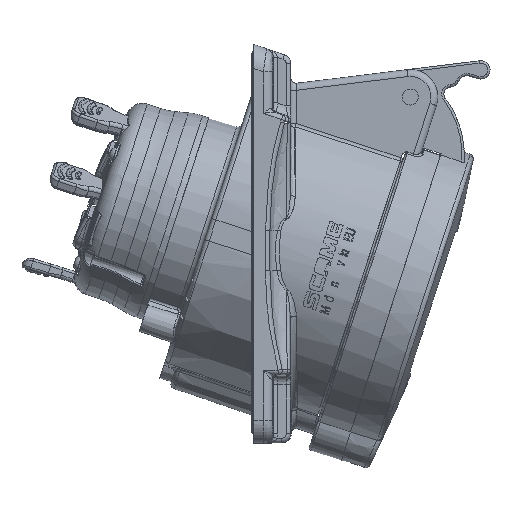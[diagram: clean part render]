
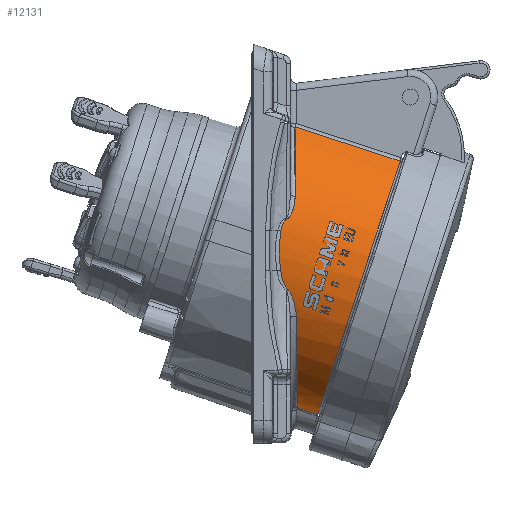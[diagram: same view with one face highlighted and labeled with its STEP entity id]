
A CAD part, left-side view. The second image highlights one B-rep face of the part: STEP entity #12131.
In plain terms, the highlighted cylindrical face has radius 31.8 mm (diameter 63.6 mm), a partial arc.
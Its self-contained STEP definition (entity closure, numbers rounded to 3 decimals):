
#350=ELLIPSE('',#38885,33.529,31.8);
#351=ELLIPSE('',#38886,33.529,31.8);
#12131=ADVANCED_FACE('',(#13957),#13260,.T.);
#13260=CYLINDRICAL_SURFACE('',#38888,31.8);
#13957=FACE_OUTER_BOUND('',#15318,.T.);
#15318=EDGE_LOOP('',(#23676,#23677,#23678,#23679,#23680,#23681,#23682,#23683,
#23684,#23685));
#16962=B_SPLINE_CURVE_WITH_KNOTS('',3,(#62035,#62036,#62037,#62038,#62039,
#62040,#62041,#62042,#62043,#62044,#62045,#62046,#62047,#62048),
 .UNSPECIFIED.,.F.,.F.,(4,2,2,2,2,2,4),(0.,0.5,0.625,
0.75,0.812,0.875,1.),.UNSPECIFIED.);
#16963=B_SPLINE_CURVE_WITH_KNOTS('',3,(#62050,#62051,#62052,#62053,#62054,
#62055,#62056,#62057,#62058,#62059),.UNSPECIFIED.,.F.,.F.,(4,2,2,2,4),(0.,
0.25,0.375,0.5,1.),.UNSPECIFIED.);
#16964=B_SPLINE_CURVE_WITH_KNOTS('',3,(#62061,#62062,#62063,#62064,#62065,
#62066,#62067,#62068,#62069,#62070,#62071,#62072,#62073,#62074),
 .UNSPECIFIED.,.F.,.F.,(4,2,2,2,2,2,4),(0.,0.125,0.188,
0.25,0.5,0.75,1.),.UNSPECIFIED.);
#16965=B_SPLINE_CURVE_WITH_KNOTS('',3,(#62076,#62077,#62078,#62079,#62080,
#62081,#62082,#62083,#62084,#62085,#62086,#62087,#62088,#62089),
 .UNSPECIFIED.,.F.,.F.,(4,2,2,2,2,2,4),(0.,0.25,0.375,
0.5,0.625,0.75,1.),.UNSPECIFIED.);
#16966=B_SPLINE_CURVE_WITH_KNOTS('',3,(#62091,#62092,#62093,#62094,#62095,
#62096,#62097,#62098,#62099,#62100,#62101,#62102,#62103,#62104),
 .UNSPECIFIED.,.F.,.F.,(4,2,2,2,2,2,4),(0.,0.062,0.125,
0.25,0.5,0.75,1.),.UNSPECIFIED.);
#18765=LINE('',#62030,#20316);
#18766=LINE('',#62108,#20317);
#20316=VECTOR('',#42383,1.);
#20317=VECTOR('',#42388,1.);
#23676=ORIENTED_EDGE('',*,*,#33726,.T.);
#23677=ORIENTED_EDGE('',*,*,#33727,.T.);
#23678=ORIENTED_EDGE('',*,*,#33728,.T.);
#23679=ORIENTED_EDGE('',*,*,#33729,.T.);
#23680=ORIENTED_EDGE('',*,*,#33730,.T.);
#23681=ORIENTED_EDGE('',*,*,#33731,.T.);
#23682=ORIENTED_EDGE('',*,*,#33732,.T.);
#23683=ORIENTED_EDGE('',*,*,#33733,.T.);
#23684=ORIENTED_EDGE('',*,*,#33734,.T.);
#23685=ORIENTED_EDGE('',*,*,#33735,.T.);
#29718=VERTEX_POINT('',#62031);
#29719=VERTEX_POINT('',#62032);
#29720=VERTEX_POINT('',#62034);
#29721=VERTEX_POINT('',#62049);
#29722=VERTEX_POINT('',#62060);
#29723=VERTEX_POINT('',#62075);
#29724=VERTEX_POINT('',#62090);
#29725=VERTEX_POINT('',#62105);
#29726=VERTEX_POINT('',#62107);
#29727=VERTEX_POINT('',#62109);
#33726=EDGE_CURVE('',#29718,#29719,#18765,.T.);
#33727=EDGE_CURVE('',#29719,#29720,#350,.T.);
#33728=EDGE_CURVE('',#29720,#29721,#16962,.T.);
#33729=EDGE_CURVE('',#29721,#29722,#16963,.T.);
#33730=EDGE_CURVE('',#29722,#29723,#16964,.T.);
#33731=EDGE_CURVE('',#29723,#29724,#16965,.T.);
#33732=EDGE_CURVE('',#29724,#29725,#16966,.T.);
#33733=EDGE_CURVE('',#29725,#29726,#351,.T.);
#33734=EDGE_CURVE('',#29726,#29727,#18766,.T.);
#33735=EDGE_CURVE('',#29727,#29718,#37407,.T.);
#37407=CIRCLE('',#38887,31.8);
#38885=AXIS2_PLACEMENT_3D('',#62033,#42384,#42385);
#38886=AXIS2_PLACEMENT_3D('',#62106,#42386,#42387);
#38887=AXIS2_PLACEMENT_3D('',#62110,#42389,#42390);
#38888=AXIS2_PLACEMENT_3D('',#62111,#42391,#42392);
#42383=DIRECTION('',(0.,0.951,0.309));
#42384=DIRECTION('',(-0.006,-1.,0.008));
#42385=DIRECTION('',(-0.019,0.008,1.));
#42386=DIRECTION('',(-0.006,-1.,0.008));
#42387=DIRECTION('',(-0.019,0.008,1.));
#42388=DIRECTION('',(0.,-0.951,-0.309));
#42389=DIRECTION('',(0.,0.951,0.309));
#42390=DIRECTION('',(-1.,0.,0.));
#42391=DIRECTION('',(0.,0.951,0.309));
#42392=DIRECTION('',(-1.,0.,0.));
#62030=CARTESIAN_POINT('',(-16.727,135.752,72.138));
#62031=CARTESIAN_POINT('',(-16.727,102.275,61.26));
#62032=CARTESIAN_POINT('',(-16.727,125.158,68.696));
#62033=CARTESIAN_POINT('',(-0.001,124.816,40.147));
#62034=CARTESIAN_POINT('',(-29.118,125.111,53.683));
#62035=CARTESIAN_POINT('',(-29.118,125.111,53.683));
#62036=CARTESIAN_POINT('',(-29.483,125.106,52.81));
#62037=CARTESIAN_POINT('',(-29.832,125.231,51.911));
#62038=CARTESIAN_POINT('',(-30.227,125.554,50.777));
#62039=CARTESIAN_POINT('',(-30.294,125.617,50.582));
#62040=CARTESIAN_POINT('',(-30.447,125.788,50.119));
#62041=CARTESIAN_POINT('',(-30.502,125.858,49.948));
#62042=CARTESIAN_POINT('',(-30.614,126.034,49.592));
#62043=CARTESIAN_POINT('',(-30.648,126.094,49.482));
#62044=CARTESIAN_POINT('',(-30.711,126.214,49.281));
#62045=CARTESIAN_POINT('',(-30.728,126.248,49.225));
#62046=CARTESIAN_POINT('',(-30.838,126.515,48.87));
#62047=CARTESIAN_POINT('',(-30.887,126.693,48.715));
#62048=CARTESIAN_POINT('',(-30.916,126.873,48.645));
#62049=CARTESIAN_POINT('',(-30.916,126.873,48.645));
#62050=CARTESIAN_POINT('',(-30.916,126.873,48.645));
#62051=CARTESIAN_POINT('',(-30.953,127.094,48.559));
#62052=CARTESIAN_POINT('',(-31.014,127.315,48.352));
#62053=CARTESIAN_POINT('',(-31.084,127.519,48.087));
#62054=CARTESIAN_POINT('',(-31.108,127.584,47.988));
#62055=CARTESIAN_POINT('',(-31.159,127.708,47.771));
#62056=CARTESIAN_POINT('',(-31.192,127.78,47.623));
#62057=CARTESIAN_POINT('',(-31.297,127.998,47.126));
#62058=CARTESIAN_POINT('',(-31.385,128.139,46.647));
#62059=CARTESIAN_POINT('',(-31.468,128.248,46.084));
#62060=CARTESIAN_POINT('',(-31.468,128.248,46.084));
#62061=CARTESIAN_POINT('',(-31.468,128.248,46.084));
#62062=CARTESIAN_POINT('',(-31.515,128.309,45.769));
#62063=CARTESIAN_POINT('',(-31.559,128.362,45.433));
#62064=CARTESIAN_POINT('',(-31.619,128.429,44.895));
#62065=CARTESIAN_POINT('',(-31.638,128.45,44.711));
#62066=CARTESIAN_POINT('',(-31.674,128.487,44.33));
#62067=CARTESIAN_POINT('',(-31.693,128.506,44.103));
#62068=CARTESIAN_POINT('',(-31.757,128.569,43.249));
#62069=CARTESIAN_POINT('',(-31.791,128.596,42.483));
#62070=CARTESIAN_POINT('',(-31.806,128.6,41.045));
#62071=CARTESIAN_POINT('',(-31.792,128.579,40.314));
#62072=CARTESIAN_POINT('',(-31.722,128.495,38.887));
#62073=CARTESIAN_POINT('',(-31.661,128.425,38.126));
#62074=CARTESIAN_POINT('',(-31.59,128.333,37.448));
#62075=CARTESIAN_POINT('',(-31.59,128.333,37.448));
#62076=CARTESIAN_POINT('',(-31.59,128.333,37.448));
#62077=CARTESIAN_POINT('',(-31.548,128.279,37.052));
#62078=CARTESIAN_POINT('',(-31.508,128.222,36.711));
#62079=CARTESIAN_POINT('',(-31.43,128.095,36.119));
#62080=CARTESIAN_POINT('',(-31.404,128.049,35.928));
#62081=CARTESIAN_POINT('',(-31.351,127.952,35.561));
#62082=CARTESIAN_POINT('',(-31.329,127.909,35.414));
#62083=CARTESIAN_POINT('',(-31.268,127.78,35.016));
#62084=CARTESIAN_POINT('',(-31.239,127.711,34.828));
#62085=CARTESIAN_POINT('',(-31.182,127.566,34.475));
#62086=CARTESIAN_POINT('',(-31.159,127.505,34.338));
#62087=CARTESIAN_POINT('',(-31.069,127.222,33.793));
#62088=CARTESIAN_POINT('',(-31.014,126.999,33.466));
#62089=CARTESIAN_POINT('',(-30.981,126.741,33.228));
#62090=CARTESIAN_POINT('',(-30.981,126.741,33.228));
#62091=CARTESIAN_POINT('',(-30.981,126.741,33.228));
#62092=CARTESIAN_POINT('',(-30.97,126.66,33.153));
#62093=CARTESIAN_POINT('',(-30.956,126.579,33.063));
#62094=CARTESIAN_POINT('',(-30.92,126.417,32.851));
#62095=CARTESIAN_POINT('',(-30.891,126.316,32.695));
#62096=CARTESIAN_POINT('',(-30.832,126.133,32.384));
#62097=CARTESIAN_POINT('',(-30.776,125.996,32.108));
#62098=CARTESIAN_POINT('',(-30.625,125.694,31.415));
#62099=CARTESIAN_POINT('',(-30.499,125.514,30.892));
#62100=CARTESIAN_POINT('',(-30.225,125.226,29.874));
#62101=CARTESIAN_POINT('',(-30.088,125.12,29.407));
#62102=CARTESIAN_POINT('',(-29.737,124.945,28.329));
#62103=CARTESIAN_POINT('',(-29.555,124.899,27.822));
#62104=CARTESIAN_POINT('',(-29.368,124.894,27.347));
#62105=CARTESIAN_POINT('',(-29.368,124.894,27.347));
#62106=CARTESIAN_POINT('',(-0.001,124.816,40.147));
#62107=CARTESIAN_POINT('',(-6.607,124.586,7.365));
#62108=CARTESIAN_POINT('',(-6.607,153.722,16.832));
#62109=CARTESIAN_POINT('',(-6.607,120.245,5.955));
#62110=CARTESIAN_POINT('',(-0.001,110.633,35.539));
#62111=CARTESIAN_POINT('',(-0.001,144.11,46.416));
